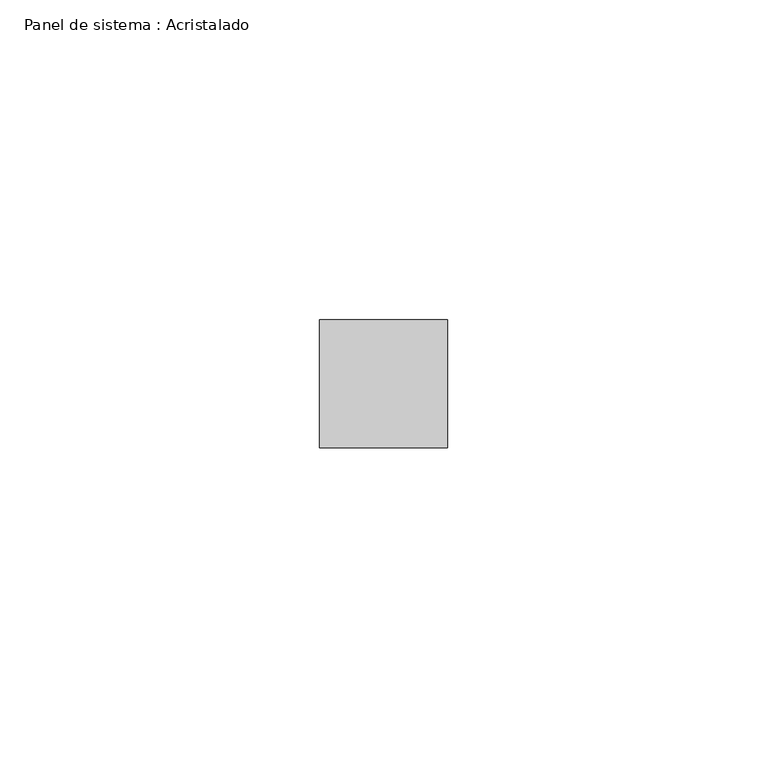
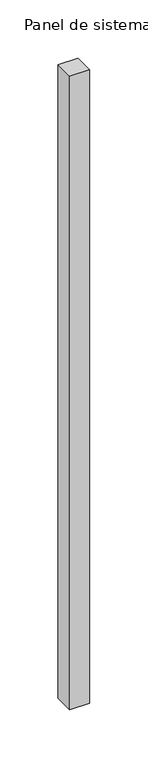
"""IFC4 building model written with IfcOpenShell, lengths in millimetres: plate geometry, Panel de sistema : Acristalado."""

from ifc_helpers import new_model, si_unit, origin, origin_with_axes, place, context, project, spatial, polyline, outline, extrude, source, transform, mapped, element, save


def panel_de_sistema_acristalado_15d5831b(model_context):
    return source(origin(), model_context, "Body", "SweptSolid", [
        extrude(outline(polyline([(10.0, -10.0), (-10.0, -10.0), (-10.0, 10.0), (10.0, 10.0), (10.0, -10.0)])), origin_with_axes(), (0.0, 0.0, 1.0), 665.0),
    ])


if __name__ == "__main__":
    model = new_model("IFC4")
    model_context = context("Model", 3, world=origin())
    ifc_project = project(units=[si_unit("LENGTHUNIT", "METRE", prefix="MILLI")], contexts=[model_context])
    site = spatial("IfcSite", under=ifc_project)
    building = spatial("IfcBuilding", under=site)
    placement = place(None, origin())
    panel_de_sistema_acristalado_shape = panel_de_sistema_acristalado_15d5831b(model_context)
    element("IfcPlate", 1, ObjectType="Panel de sistema : Acristalado", at=placement, inside=building, context=model_context, shape_type="MappedRepresentation", body=[
        mapped(panel_de_sistema_acristalado_shape, transform((0.0, 0.0, 0.0), x_axis=(1.0, 0.0, 0.0), y_axis=(0.0, 1.0, 0.0), z_axis=(0.0, 0.0, 1.0))),
    ])
    save(model, "model.ifc")
